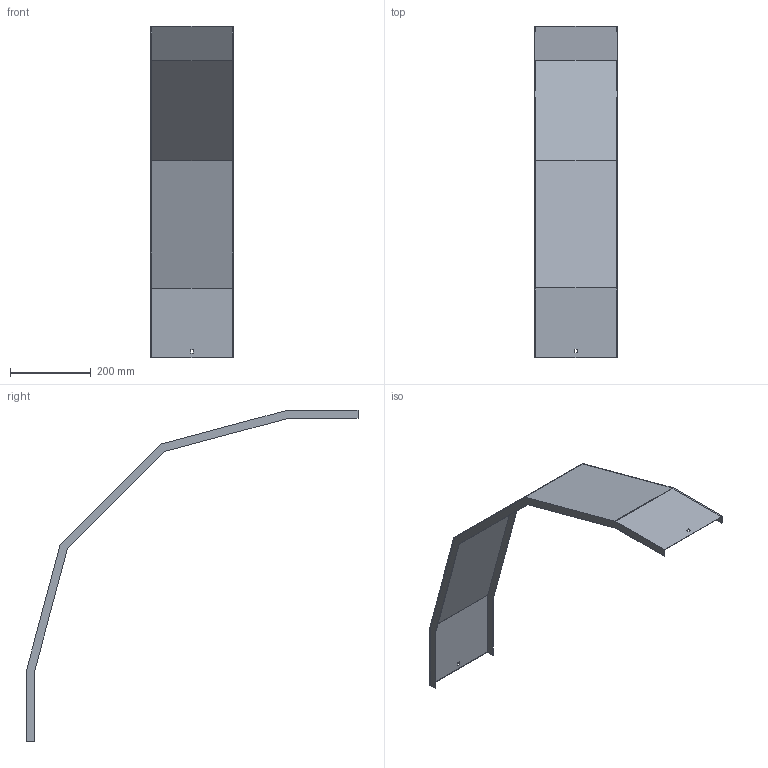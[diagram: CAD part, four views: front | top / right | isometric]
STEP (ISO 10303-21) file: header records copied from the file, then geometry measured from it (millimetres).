
FILE_DESCRIPTION (( 'STEP AP214' ), '1' );
FILE_NAME ('33N5F200.step', '2025-02-21T14:25:36', ( '' ), ( '' ), 'SwSTEP 2.0', 'SolidWorks 2023', '' );
FILE_SCHEMA (( 'AUTOMOTIVE_DESIGN' ));
Length unit declared in the file: millimetre
Products named in the file (1): 33N5F200
Bounding box: 203 x 820.4 x 820.4 mm (x, y, z)
Volume: 484134.3 mm3; surface area: 650280.1 mm2
Topology: 1 solids, 1 shells, 34 faces, 96 edges, 64 vertices
Faces by surface type: plane 34
Entity records: 1111 total; most frequent: CARTESIAN_POINT 195, ORIENTED_EDGE 192, DIRECTION 166, VECTOR 96, LINE 96, EDGE_CURVE 96, VERTEX_POINT 64, EDGE_LOOP 38
